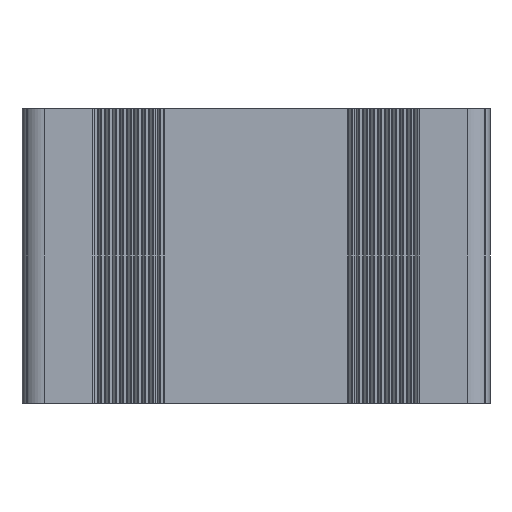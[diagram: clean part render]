
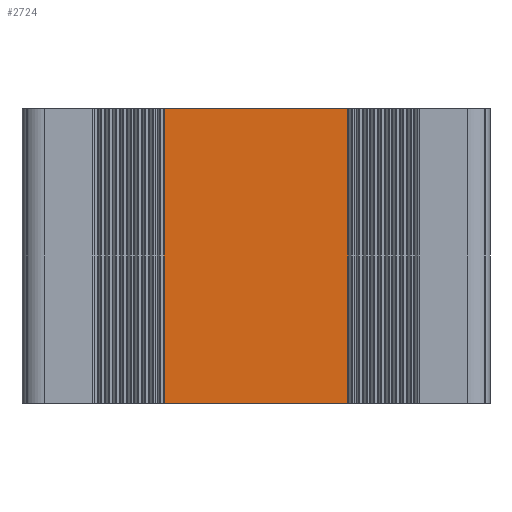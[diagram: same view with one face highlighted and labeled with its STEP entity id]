
A CAD part, front view. The second image highlights one B-rep face of the part: STEP entity #2724.
In plain terms, the highlighted planar face has unit normal (0, -1, 0).
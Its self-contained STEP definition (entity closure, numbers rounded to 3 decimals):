
#269 = PLANE ( 'NONE',  #1133 ) ;
#334 = VECTOR ( 'NONE', #3724, 1000. ) ;
#646 = VECTOR ( 'NONE', #2984, 1000. ) ;
#809 = CARTESIAN_POINT ( 'NONE',  ( 1070.993, 588.18, -20. ) ) ;
#849 = DIRECTION ( 'NONE',  ( 0., 0., 1. ) ) ;
#1020 = FACE_OUTER_BOUND ( 'NONE', #6759, .T. ) ;
#1133 = AXIS2_PLACEMENT_3D ( 'NONE', #3106, #4250, #849 ) ;
#1696 = CARTESIAN_POINT ( 'NONE',  ( 1070.993, 588.18, 20. ) ) ;
#1817 = ORIENTED_EDGE ( 'NONE', *, *, #4693, .F. ) ;
#2029 = LINE ( 'NONE', #4844, #334 ) ;
#2345 = ORIENTED_EDGE ( 'NONE', *, *, #5252, .F. ) ;
#2369 = CARTESIAN_POINT ( 'NONE',  ( 1095.91, 588.18, 20. ) ) ;
#2427 = VERTEX_POINT ( 'NONE', #4973 ) ;
#2570 = VECTOR ( 'NONE', #4670, 1000. ) ;
#2591 = VERTEX_POINT ( 'NONE', #1696 ) ;
#2724 = ADVANCED_FACE ( 'NONE', ( #1020 ), #269, .F. ) ;
#2909 = DIRECTION ( 'NONE',  ( 1., 0., 0. ) ) ;
#2984 = DIRECTION ( 'NONE',  ( 0., 0., -1. ) ) ;
#3106 = CARTESIAN_POINT ( 'NONE',  ( 1070.993, 588.18, 20. ) ) ;
#3191 = ORIENTED_EDGE ( 'NONE', *, *, #6761, .T. ) ;
#3271 = VECTOR ( 'NONE', #2909, 1000. ) ;
#3724 = DIRECTION ( 'NONE',  ( 1., 0., 0. ) ) ;
#3795 = VERTEX_POINT ( 'NONE', #809 ) ;
#4099 = LINE ( 'NONE', #2369, #2570 ) ;
#4146 = CARTESIAN_POINT ( 'NONE',  ( 1070.993, 588.18, 20. ) ) ;
#4250 = DIRECTION ( 'NONE',  ( 0., 1., 0. ) ) ;
#4618 = CARTESIAN_POINT ( 'NONE',  ( 1070.993, 588.18, -20. ) ) ;
#4670 = DIRECTION ( 'NONE',  ( 0., 0., -1. ) ) ;
#4693 = EDGE_CURVE ( 'NONE', #2427, #5880, #4099, .T. ) ;
#4789 = LINE ( 'NONE', #4618, #3271 ) ;
#4844 = CARTESIAN_POINT ( 'NONE',  ( 1070.993, 588.18, 20. ) ) ;
#4973 = CARTESIAN_POINT ( 'NONE',  ( 1095.91, 588.18, 20. ) ) ;
#4982 = ORIENTED_EDGE ( 'NONE', *, *, #5951, .T. ) ;
#5252 = EDGE_CURVE ( 'NONE', #2591, #2427, #2029, .T. ) ;
#5880 = VERTEX_POINT ( 'NONE', #6279 ) ;
#5951 = EDGE_CURVE ( 'NONE', #3795, #5880, #4789, .T. ) ;
#6279 = CARTESIAN_POINT ( 'NONE',  ( 1095.91, 588.18, -20. ) ) ;
#6737 = LINE ( 'NONE', #4146, #646 ) ;
#6759 = EDGE_LOOP ( 'NONE', ( #4982, #1817, #2345, #3191 ) ) ;
#6761 = EDGE_CURVE ( 'NONE', #2591, #3795, #6737, .T. ) ;
